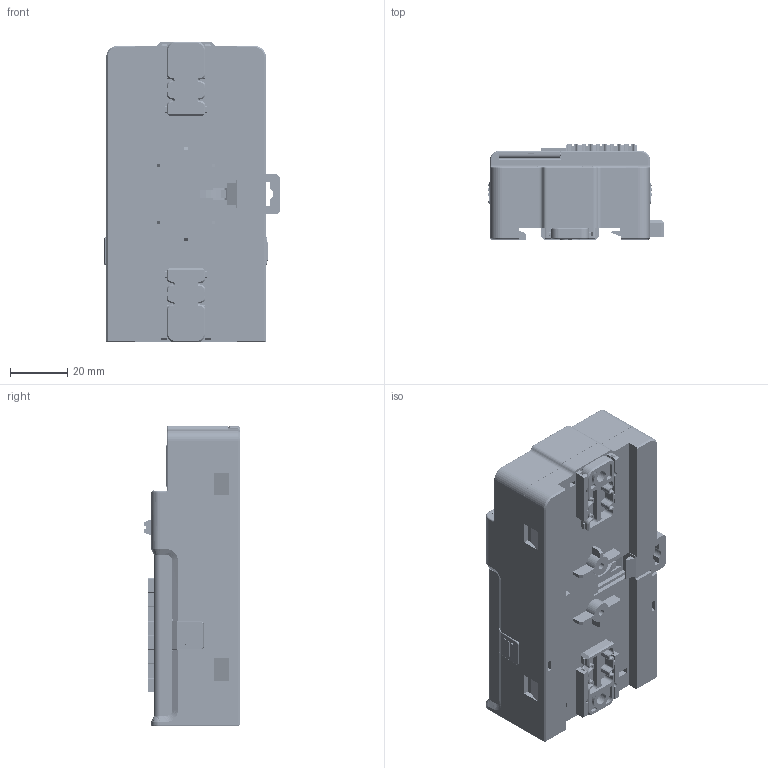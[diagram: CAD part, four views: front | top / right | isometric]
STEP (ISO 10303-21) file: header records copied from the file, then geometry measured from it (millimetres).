
FILE_DESCRIPTION(/* description */ (''),/* implementation_level */ '2;1');
FILE_NAME(/* name */ 'G2-FS-短款-3位一体欧式端子.stp',/* time_stamp */ '2022-12-03T11:51:12+08:00',/* author */ (''),/* organization */ (''),/* preprocessor_version */ 'ST-DEVELOPER v16',/* originating_system */ 'SIEMENS PLM Software NX 10.0',/* authorisation */ '');
FILE_SCHEMA (('AP203_CONFIGURATION_CONTROLLED_3D_DESIGN_OF_MECHANICAL_PARTS_AND_ASSEMBLIES_MIM_LF { 1 0 10303 403 2 1 2}'));
Products named in the file (1): 734912C0372Faqp2
Bounding box: 61.81 x 33.43 x 105.5 mm (x, y, z)
Volume: 146568.2 mm3; surface area: 95536.5 mm2
Topology: 64 solids, 151 shells, 20940 faces, 57057 edges, 36673 vertices
Faces by surface type: plane 14093, cylinder 4605, cone 849, bspline 667, torus 616, extrusion 84, sphere 22, revolution 4
Full cylindrical faces by diameter (mm): 0.6 x4, 0.76 x6, 0.8 x13, 0.9 x1, 0.92 x18, 1 x5, 1.1 x2, 1.2 x25, 1.24 x16, 1.26 x3, 1.36 x24, 1.5 x5, 1.64 x20, 1.7 x4, 2.35 x2, 3.2 x3, 3.3 x3, 4.2 x2, 6.05 x3, 6.15 x3
Entity records: 682696 total; most frequent: CARTESIAN_POINT 153945, ORIENTED_EDGE 113134, DIRECTION 105185, EDGE_CURVE 56567, VECTOR 43013, LINE 42929, VERTEX_POINT 36603, AXIS2_PLACEMENT_3D 31084
